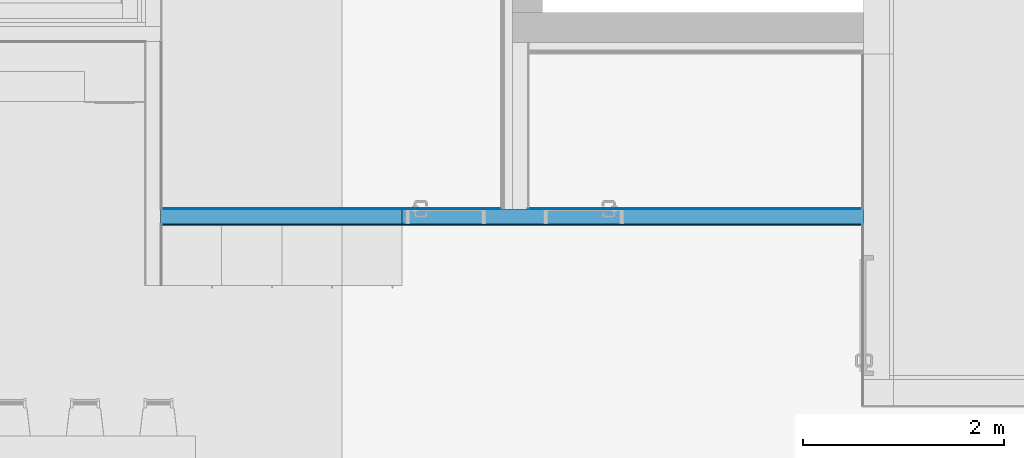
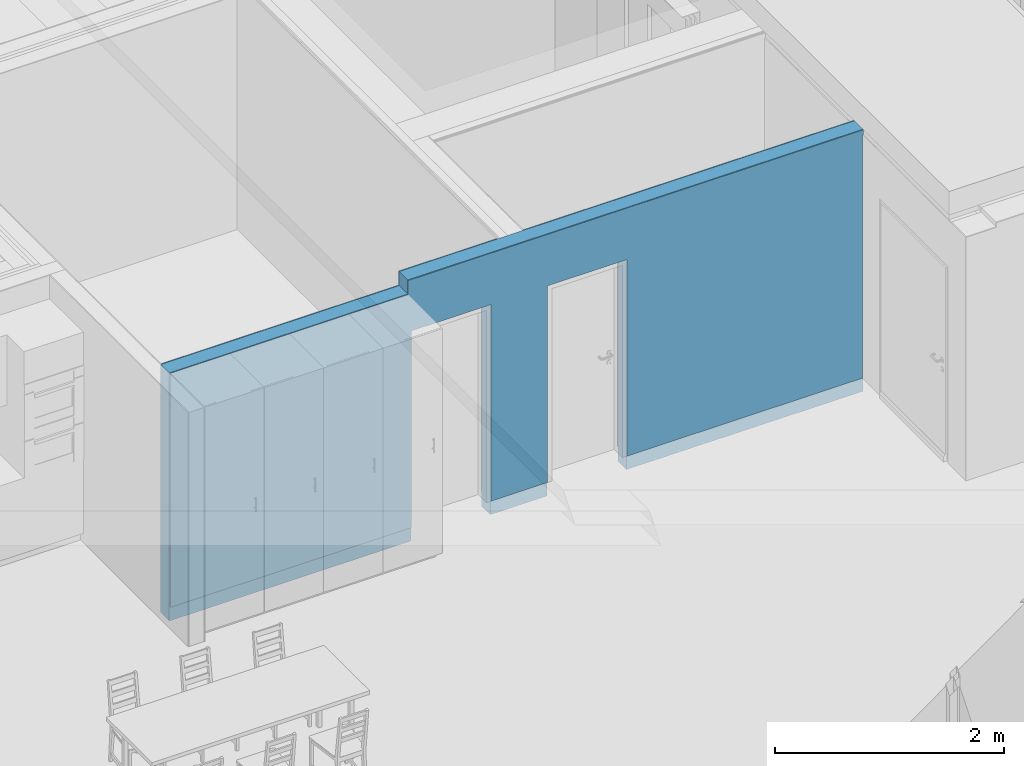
# One storey, part 3 of 34: 3 building element parts, 2 openings, 1 element without a shape of its own.
"""IFC4 building model written with IfcOpenShell, lengths in millimetres."""

from ifc_helpers import new_model, entity, si_unit, converted_unit, derived_unit, direction, frame, origin_with_axes, place, context, subcontext, project, spatial, polygons, material, type_object, element, aggregate, save


model = new_model("IFC4")

# Units and contexts
model_context = context("Model", 3, precision=0.01, world=origin_with_axes(), true_north=direction((0.0, 1.0)))
body_context = subcontext(model_context, "Body", "Model", "MODEL_VIEW")
ifc_project = project(units=[si_unit("LENGTHUNIT", "METRE", prefix="MILLI"), si_unit("AREAUNIT", "SQUARE_METRE"), si_unit("VOLUMEUNIT", "CUBIC_METRE"), converted_unit("PLANEANGLEUNIT", "DEGREE", entity("IfcPlaneAngleMeasure", 0.0174532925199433), si_unit("PLANEANGLEUNIT", "RADIAN"), dimensions=[0, 0, 0, 0, 0, 0, 0]), converted_unit("TIMEUNIT", "Year", entity("IfcTimeMeasure", 31557600.0), si_unit("TIMEUNIT", "SECOND"), dimensions=[0, 0, 1, 0, 0, 0, 0]), si_unit("MASSUNIT", "GRAM", prefix="KILO"), si_unit("THERMODYNAMICTEMPERATUREUNIT", "DEGREE_CELSIUS"), si_unit("LUMINOUSINTENSITYUNIT", "LUMEN"), si_unit("ENERGYUNIT", "JOULE", prefix="MEGA"), derived_unit("THERMALCONDUCTANCEUNIT", [(si_unit("POWERUNIT", "WATT"), 1), (si_unit("LENGTHUNIT", "METRE"), -1), (si_unit("THERMODYNAMICTEMPERATUREUNIT", "KELVIN"), -1)]), derived_unit("SPECIFICHEATCAPACITYUNIT", [(si_unit("ENERGYUNIT", "JOULE"), 1), (si_unit("MASSUNIT", "GRAM", prefix="KILO"), -1), (si_unit("THERMODYNAMICTEMPERATUREUNIT", "KELVIN"), -1)]), derived_unit("MASSDENSITYUNIT", [(si_unit("MASSUNIT", "GRAM", prefix="KILO"), 1), (si_unit("VOLUMEUNIT", "CUBIC_METRE"), -1)])], contexts=[model_context])

# Site, building, storey
site_placement = place(None, origin_with_axes())
site = spatial("IfcSite", under=ifc_project, at=site_placement, Name="Gelände", CompositionType="ELEMENT")
building_placement = place(site_placement, origin_with_axes())
building = spatial("IfcBuilding", under=site, at=building_placement, Name="Gebäude", CompositionType="ELEMENT")
storey_placement = place(building_placement, frame((0.0, 0.0, 2900.0), z_axis=(0.0, 0.0, 1.0), x_axis=(1.0, 0.0, 0.0)))
storey = spatial("IfcBuildingStorey", under=building, at=storey_placement, Name="1.OG", CompositionType="ELEMENT", Elevation=2900.0)

# Wall, openings, building element parts
wall_type = type_object("IfcWallType", Name="Innenwand Typ 05 170", PredefinedType="NOTDEFINED")
wall_placement = place(storey_placement, frame((15728.99744477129, 29917.59728131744, 0.0), z_axis=(0.0, 0.0, 1.0), x_axis=(-1.0, 0.0, 0.0)))
wall = element("IfcWall", 1, at=wall_placement, inside=storey, type_object=wall_type, Name="Wand-014", PredefinedType="NOTDEFINED")
opening_1_placement = place(wall_placement, frame((3090.0, 0.0, 149.9999999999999), z_axis=(0.0, 0.0, 1.0), x_axis=(1.0, 0.0, 0.0)))
element("IfcOpeningElement", 2, at=opening_1_placement, cuts=wall, Name="Tür-011", context=body_context, identifier="Reference", shape_type="Tessellation", body=[
    polygons([(400.0000000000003, 171.0000000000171, 2100.0), (400.0000000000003, 171.0000000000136, -149.9999999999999), (-400.0000000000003, 171.0000000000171, -149.9999999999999), (-400.0000000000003, 171.0000000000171, 2100.0), (400.0000000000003, -1.000000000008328, 2100.0), (400.0000000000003, -1.00000000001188, -149.9999999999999), (-400.0000000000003, -1.000000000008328, -149.9999999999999), (-400.0000000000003, -1.000000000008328, 2100.0)], [[[1, 2, 3, 4]], [[5, 6, 2, 1]], [[6, 7, 3, 2]], [[7, 8, 4, 3]], [[8, 5, 1, 4]], [[7, 6, 5, 8]]], closed=True),
])
opening_2_placement = place(wall_placement, frame((4465.0, 0.0, 149.9999999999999), z_axis=(0.0, 0.0, 1.0), x_axis=(1.0, 0.0, 0.0)))
element("IfcOpeningElement", 3, at=opening_2_placement, cuts=wall, Name="Tür-011", context=body_context, identifier="Reference", shape_type="Tessellation", body=[
    polygons([(400.0000000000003, 171.0000000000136, 2100.0), (400.0000000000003, 171.00000000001, -149.9999999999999), (-400.0000000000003, 171.0000000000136, -149.9999999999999), (-400.0000000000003, 171.0000000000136, 2100.0), (400.0000000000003, -1.00000000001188, 2100.0), (400.0000000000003, -1.000000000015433, -149.9999999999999), (-400.0000000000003, -1.00000000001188, -149.9999999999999), (-400.0000000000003, -1.00000000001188, 2100.0)], [[[1, 2, 3, 4]], [[5, 6, 2, 1]], [[6, 7, 3, 2]], [[7, 8, 4, 3]], [[8, 5, 1, 4]], [[7, 6, 5, 8]]], closed=True),
])
ifc_material_1 = material(Name="Kalkzementputz Aussen")
building_element_part_1_placement = place(wall_placement, origin_with_axes())
building_element_part_1 = element("IfcBuildingElementPart", 4, at=building_element_part_1_placement, material=ifc_material_1, Name="Kalkzementputz Aussen", PredefinedType="NOTDEFINED", context=body_context, shape_type="Tessellation", body=[
    polygons([(3490.0, 160.0000011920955, 2250.0), (3490.0, 160.0000006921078, 149.9999999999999), (4065.0, 160.0000006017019, 149.9999999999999), (4065.0, 160.0000011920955, 2250.0), (4865.0, 160.0000011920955, 2250.0), (4865.0, 160.0000004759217, 149.9999999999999), (7300.000000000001, 160.0000000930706, 149.9999999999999), (7300.000000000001, 160.0000011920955, 2649.999948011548), (4900.000000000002, 160.0000011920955, 2649.999948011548), (4900.000000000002, 160.0000011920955, 2800.000000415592), (299.9999999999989, 160.0000011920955, 2800.0), (299.9999999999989, 160.0000011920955, 2750.0), (310.0000000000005, 160.0000011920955, 2750.0), (310.0000000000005, 160.0000011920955, 149.9999999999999), (2690.0, 160.0000008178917, 149.9999999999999), (2690.0, 160.0000011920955, 2250.0), (3490.0, 169.9999999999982, 2250.0), (3490.0, 169.9999999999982, 149.9999999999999), (4065.0, 169.9999999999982, 149.9999999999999), (4065.0, 169.9999999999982, 2250.0), (4865.0, 169.9999999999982, 2250.0), (4865.0, 169.9999999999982, 149.9999999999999), (7300.000000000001, 169.9999999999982, 149.9999999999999), (7300.000000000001, 170.0000000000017, 2649.999948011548), (4900.000000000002, 170.0000000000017, 2649.999948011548), (4900.000000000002, 170.0000000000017, 2800.000000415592), (299.9999999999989, 170.0000000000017, 2800.0), (299.9999999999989, 170.0000000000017, 2750.0), (310.0000000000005, 170.0000000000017, 2750.0), (310.0000000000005, 170.0000000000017, 149.9999999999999), (2690.0, 169.9999999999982, 149.9999999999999), (2690.0, 169.9999999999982, 2250.0)], [[[1, 2, 3, 4, 5, 6, 7, 8, 9, 10, 11, 12, 13, 14, 15, 16]], [[2, 1, 17, 18]], [[2, 18, 19, 3]], [[3, 19, 20, 4]], [[4, 20, 21, 5]], [[5, 21, 22, 6]], [[22, 23, 7, 6]], [[24, 8, 7, 23]], [[24, 25, 9, 8]], [[9, 25, 26, 10]], [[10, 26, 27, 11]], [[27, 28, 12, 11]], [[29, 13, 12, 28]], [[13, 29, 30, 14]], [[31, 15, 14, 30]], [[16, 15, 31, 32]], [[1, 16, 32, 17]], [[32, 31, 30, 29, 28, 27, 26, 25, 24, 23, 22, 21, 20, 19, 18, 17]]], closed=True),
])
ifc_material_2 = material(Name="MW, Backstein")
building_element_part_2_placement = place(wall_placement, origin_with_axes())
building_element_part_2 = element("IfcBuildingElementPart", 5, at=building_element_part_2_placement, material=ifc_material_2, Name="MW, Backstein", PredefinedType="NOTDEFINED", context=body_context, shape_type="Tessellation", body=[
    polygons([(3490.0, 9.999999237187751, 2250.0), (3490.0, 9.999999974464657, 149.9999999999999), (3490.0, 9.999999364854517, 0.0), (4065.0, 9.999999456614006, 0.0), (4065.0, 9.999999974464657, 149.9999999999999), (4065.0, 9.999999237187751, 2250.0), (4865.0, 9.999999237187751, 2250.0), (4865.0, 9.999999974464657, 149.9999999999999), (4865.0, 9.999999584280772, 0.0), (7310.000000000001, 9.999999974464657, 0.0), (7310.000000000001, 9.999998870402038, 2649.999948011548), (4900.000000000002, 9.999999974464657, 2649.999948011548), (4900.000000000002, 9.999998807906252, 2800.000000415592), (299.9999999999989, 9.999998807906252, 2800.0), (300.0000000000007, 9.999998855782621, 0.0), (2690.0, 9.999999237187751, 0.0), (2690.0, 9.999999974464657, 149.9999999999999), (2690.0, 9.999999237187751, 2250.0), (3490.0, 160.000000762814, 2250.0), (3490.0, 160.0000011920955, 149.9999999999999), (3490.0, 160.0000006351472, 0.0), (4065.0, 160.0000005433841, 0.0), (4065.0, 160.0000011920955, 149.9999999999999), (4065.0, 160.000000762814, 2250.0), (4865.0, 160.000000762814, 2250.0), (4865.0, 160.0000011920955, 149.9999999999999), (4865.0, 160.0000004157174, 0.0), (7310.000000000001, 160.0000000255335, 0.0), (7310.000000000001, 160.0000011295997, 2649.999948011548), (4900.000000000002, 160.0000011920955, 2649.999948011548), (4900.000000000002, 160.0000011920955, 2800.000000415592), (299.9999999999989, 160.0000011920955, 2800.0), (300.0000000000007, 160.0000011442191, 0.0), (2690.0, 160.000000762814, 0.0), (2690.0, 160.0000011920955, 149.9999999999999), (2690.0, 160.000000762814, 2250.0)], [[[1, 2, 3, 4, 5, 6, 7, 8, 9, 10, 11, 12, 13, 14, 15, 16, 17, 18]], [[2, 1, 19, 20]], [[2, 20, 21, 3]], [[22, 4, 3, 21]], [[5, 4, 22, 23]], [[5, 23, 24, 6]], [[6, 24, 25, 7]], [[7, 25, 26, 8]], [[26, 27, 9, 8]], [[28, 10, 9, 27]], [[10, 28, 29, 11]], [[29, 30, 12, 11]], [[12, 30, 31, 13]], [[13, 31, 32, 14]], [[15, 14, 32, 33]], [[15, 33, 34, 16]], [[35, 17, 16, 34]], [[18, 17, 35, 36]], [[1, 18, 36, 19]], [[36, 35, 34, 33, 32, 31, 30, 29, 28, 27, 26, 25, 24, 23, 22, 21, 20, 19]]], closed=True),
])
building_element_part_3_placement = place(wall_placement, origin_with_axes())
building_element_part_3 = element("IfcBuildingElementPart", 6, at=building_element_part_3_placement, material=ifc_material_1, Name="Kalkzementputz Aussen", PredefinedType="NOTDEFINED", context=body_context, shape_type="Tessellation", body=[
    polygons([(3490.0, 0.0, 2250.0), (3490.0, 0.0, 149.9999999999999), (3650.0, 0.0, 149.9999999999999), (3650.0, 0.0, 2800.000000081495), (299.9999999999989, 0.0, 2800.0), (299.9999999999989, 0.0, 2750.0), (310.0000000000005, 0.0, 2750.0), (310.0000000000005, 0.0, 149.9999999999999), (2690.0, 0.0, 149.9999999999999), (2690.0, 0.0, 2250.0), (3490.0, 9.999999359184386, 2250.0), (3490.0, 9.999999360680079, 149.9999999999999), (3650.0, 9.999999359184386, 149.9999999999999), (3650.0, 9.999998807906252, 2800.000000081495), (299.9999999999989, 9.999998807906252, 2800.0), (299.9999999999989, 9.999999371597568, 2750.0), (310.0000000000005, 9.99999939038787, 2750.0), (310.0000000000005, 9.99999939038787, 149.9999999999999), (2690.0, 9.999999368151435, 149.9999999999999), (2690.0, 9.999999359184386, 2250.0)], [[[1, 2, 3, 4, 5, 6, 7, 8, 9, 10]], [[2, 1, 11, 12]], [[2, 12, 13, 3]], [[13, 14, 4, 3]], [[5, 4, 14, 15]], [[5, 15, 16, 6]], [[16, 17, 7, 6]], [[8, 7, 17, 18]], [[19, 9, 8, 18]], [[10, 9, 19, 20]], [[1, 10, 20, 11]], [[20, 19, 18, 17, 16, 15, 14, 13, 12, 11]]], closed=True),
    polygons([(4865.0, 0.0, 2250.0), (4865.0, 0.0, 149.9999999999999), (7300.000000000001, 0.0, 149.9999999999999), (7300.000000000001, 0.0, 2649.999948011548), (4900.000000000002, 0.0, 2649.999948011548), (4900.000000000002, 0.0, 2800.000000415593), (3905.000000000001, 0.0, 2800.000000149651), (3905.000000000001, 0.0, 149.9999999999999), (4065.0, 0.0, 149.9999999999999), (4065.0, 0.0, 2250.0), (4865.0, 9.99999990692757, 2250.0), (4865.0, 9.99999954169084, 149.9999999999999), (7300.000000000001, 9.99999990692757, 149.9999999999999), (7300.000000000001, 9.999998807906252, 2649.999948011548), (4900.000000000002, 9.999998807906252, 2649.999948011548), (4900.000000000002, 9.999998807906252, 2800.000000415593), (3905.000000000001, 9.999998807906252, 2800.000000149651), (3905.000000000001, 9.999999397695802, 149.9999999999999), (4065.0, 9.999999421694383, 149.9999999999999), (4065.0, 9.99999990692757, 2250.0)], [[[1, 2, 3, 4, 5, 6, 7, 8, 9, 10]], [[2, 1, 11, 12]], [[2, 12, 13, 3]], [[13, 14, 4, 3]], [[4, 14, 15, 5]], [[6, 5, 15, 16]], [[16, 17, 7, 6]], [[8, 7, 17, 18]], [[19, 9, 8, 18]], [[10, 9, 19, 20]], [[1, 10, 20, 11]], [[20, 19, 18, 17, 16, 15, 14, 13, 12, 11]]], closed=True),
])
aggregate(wall, [building_element_part_1, building_element_part_2, building_element_part_3])

save(model, "model.ifc")
